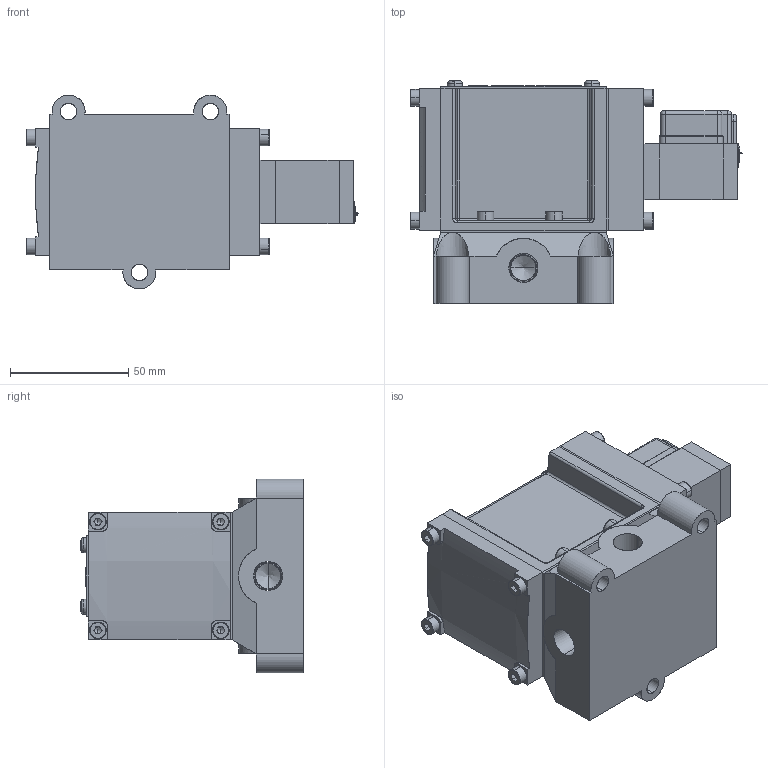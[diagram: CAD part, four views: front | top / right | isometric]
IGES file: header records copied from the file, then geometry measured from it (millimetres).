
Start section: SolidWorks IGES file using analytic representation for surfaces
Global section: file name: D:\Custom\3D繪製\PM\PM08\PMS2408#-02-#G#.IGS,1; native system: 5HSolidWorks 2014; preprocessor: SolidWorks 2014; author: Chieh_Lu; date: 150912.104040; units: millimetre
Bounding box: 140.47 x 94.35 x 82 mm (x, y, z)
Surface area: 102765.4 mm2 (no closed solid volume)
Topology: 0 solids, 0 shells, 874 faces, 9347 edges, 9300 vertices
Faces by surface type: bspline 544, revolution 330
